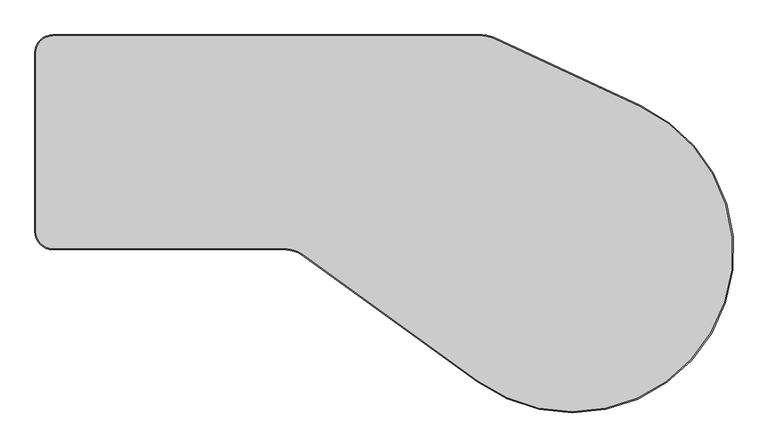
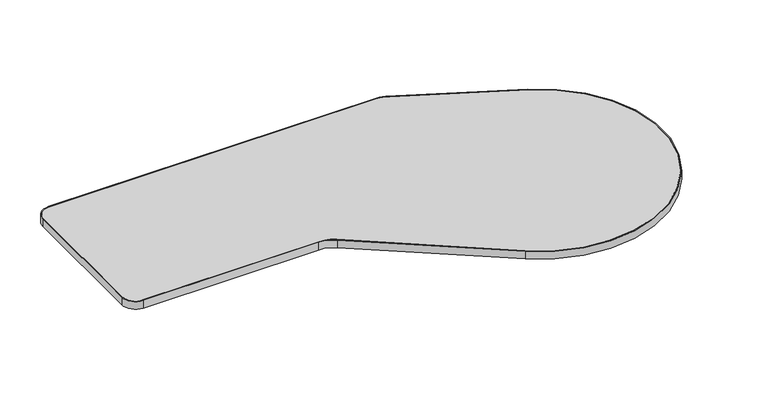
"""IFC4 building model written with IfcOpenShell, lengths in millimetres: furniture geometry, Steelcase - Answer Solution - Universal Table - Bubble Jetty - 3mm Edge : 24D x 78W - Right."""

from ifc_helpers import new_model, si_unit, point, frame, frame_2d, origin, place, context, project, spatial, polyline, circle_curve, trimmed, segment, composite_curve, outline, extrude, source, transform, mapped, element, save


def furniture_16fe0a90(model_context):
    return source(origin(), model_context, "Body", "SweptSolid", [
        extrude(outline(composite_curve([segment(trimmed(circle_curve(frame_2d((1269.9998062, -71.7938006)), 71.7938006), [point((1269.9998062, 0.0))], [point((1301.2106918, -7.1390991))], False, "CARTESIAN"), True, "CONTINUOUS"), segment(polyline([(1301.2106918, -7.1390991), (1717.6019601, -201.3056335)]), True, "CONTINUOUS"), segment(trimmed(circle_curve(frame_2d((1524.3638186, -615.7059579)), 457.2402084), [point((1717.6019601, -201.3056335))], [point((1256.679456, -986.3994838))], False, "CARTESIAN"), True, "CONTINUOUS"), segment(polyline([(1256.679456, -986.3994838), (762.9086655, -628.9046356)]), True, "CONTINUOUS"), segment(trimmed(circle_curve(frame_2d((703.3269088, -711.1987757)), 101.5987757), [point((762.9086655, -628.9046356))], [point((703.3269088, -609.6))], True, "CARTESIAN"), True, "CONTINUOUS"), segment(polyline([(703.3269088, -609.6), (50.7998062, -609.6)]), True, "CONTINUOUS"), segment(trimmed(circle_curve(frame_2d((50.7998062, -558.8001938)), 50.7998062), [point((50.7998062, -609.6))], [point((0.0, -558.8001938))], False, "CARTESIAN"), True, "CONTINUOUS"), segment(polyline([(0.0, -558.8001938), (0.0, -50.7998062)]), True, "CONTINUOUS"), segment(trimmed(circle_curve(frame_2d((50.7998062, -50.7998062)), 50.7998062), [point((0.0, -50.7998062))], [point((50.7998062, 0.0))], False, "CARTESIAN"), True, "CONTINUOUS"), segment(polyline([(50.7998062, 0.0), (1269.9998062, 0.0)]), True, "CONTINUOUS")], self_intersect=False), holes=[composite_curve([segment(trimmed(circle_curve(frame_2d((50.7998062, -50.7992249)), 47.7517365), [point((50.7998062, -3.0474884))], [point((3.0480698, -50.7992249))], True, "CARTESIAN"), True, "CONTINUOUS"), segment(polyline([(3.0480698, -50.7992249), (3.0480698, -558.7996124)]), True, "CONTINUOUS"), segment(trimmed(circle_curve(frame_2d((50.8009689, -558.7996124)), 47.7528992), [point((3.0480698, -558.7996124))], [point((50.8009689, -606.5525116))], True, "CARTESIAN"), True, "CONTINUOUS"), segment(polyline([(50.8009689, -606.5525116), (706.3712673, -606.5525116)]), True, "CONTINUOUS"), segment(trimmed(circle_curve(frame_2d((706.3712673, -701.8025116)), 95.25), [point((706.3712673, -606.5525116))], [point((762.2298374, -624.6508256))], False, "CARTESIAN"), True, "CONTINUOUS"), segment(polyline([(762.2298374, -624.6508256), (1257.666808, -983.3520043)]), True, "CONTINUOUS"), segment(trimmed(circle_curve(frame_2d((1524.0005604, -615.4926403)), 454.1521544), [point((1257.666808, -983.3520043))], [point((1715.9336334, -203.8910431))], True, "CARTESIAN"), True, "CONTINUOUS"), segment(polyline([(1715.9336334, -203.8910431), (1301.8097052, -10.7817873)]), True, "CONTINUOUS"), segment(trimmed(circle_curve(frame_2d((1266.9225534, -85.5974884)), 82.55), [point((1301.8097052, -10.7817873))], [point((1266.9225534, -3.0474884))], True, "CARTESIAN"), True, "CONTINUOUS"), segment(polyline([(1266.9225534, -3.0474884), (50.7998062, -3.0474884)]), True, "CONTINUOUS")], self_intersect=False)]), frame((0.0, 0.0, 668.274), z_axis=(0.0, 0.0, 1.0), x_axis=(1.0, 0.0, 0.0)), (0.0, 0.0, 1.0), 30.0990349),
        extrude(outline(composite_curve([segment(polyline([(3.0480698, -558.7996124), (3.0480698, -50.7992249)]), True, "CONTINUOUS"), segment(trimmed(circle_curve(frame_2d((50.7998062, -50.7992249)), 47.7517365), [point((3.0480698, -50.7992249))], [point((50.7998062, -3.0474884))], False, "CARTESIAN"), True, "CONTINUOUS"), segment(polyline([(50.7998062, -3.0474884), (1266.9225534, -3.0474884)]), True, "CONTINUOUS"), segment(trimmed(circle_curve(frame_2d((1266.9225534, -85.5974884)), 82.55), [point((1266.9225534, -3.0474884))], [point((1301.8097052, -10.7817873))], False, "CARTESIAN"), True, "CONTINUOUS"), segment(polyline([(1301.8097052, -10.7817873), (1715.9336334, -203.8910431)]), True, "CONTINUOUS"), segment(trimmed(circle_curve(frame_2d((1524.0005604, -615.4926403)), 454.1521544), [point((1715.9336334, -203.8910431))], [point((1257.666808, -983.3520043))], False, "CARTESIAN"), True, "CONTINUOUS"), segment(polyline([(1257.666808, -983.3520043), (762.2298374, -624.6508256)]), True, "CONTINUOUS"), segment(trimmed(circle_curve(frame_2d((706.3712673, -701.8025116)), 95.25), [point((762.2298374, -624.6508256))], [point((706.3712673, -606.5525116))], True, "CARTESIAN"), True, "CONTINUOUS"), segment(polyline([(706.3712673, -606.5525116), (50.8009689, -606.5525116)]), True, "CONTINUOUS"), segment(trimmed(circle_curve(frame_2d((50.8009689, -558.7996124)), 47.7528992), [point((50.8009689, -606.5525116))], [point((3.0480698, -558.7996124))], False, "CARTESIAN"), True, "CONTINUOUS")], self_intersect=False)), frame((0.0, 0.0, 668.274), z_axis=(0.0, 0.0, 1.0), x_axis=(1.0, 0.0, 0.0)), (0.0, 0.0, 1.0), 30.0990349),
    ])


if __name__ == "__main__":
    model = new_model("IFC4")
    model_context = context("Model", 3, world=origin())
    ifc_project = project(units=[si_unit("LENGTHUNIT", "METRE", prefix="MILLI")], contexts=[model_context])
    site = spatial("IfcSite", under=ifc_project)
    building = spatial("IfcBuilding", under=site)
    placement = place(None, origin())
    furniture_shape = furniture_16fe0a90(model_context)
    element("IfcFurniture", 1, ObjectType="Steelcase - Answer Solution - Universal Table - Bubble Jetty - 3mm Edge : 24D x 78W - Right", at=placement, inside=building, context=model_context, shape_type="MappedRepresentation", body=[
        mapped(furniture_shape, transform((0.0, 0.0, 0.0), x_axis=(1.0, 0.0, 0.0), y_axis=(0.0, 1.0, 0.0), z_axis=(0.0, 0.0, 1.0))),
    ])
    save(model, "model.ifc")
